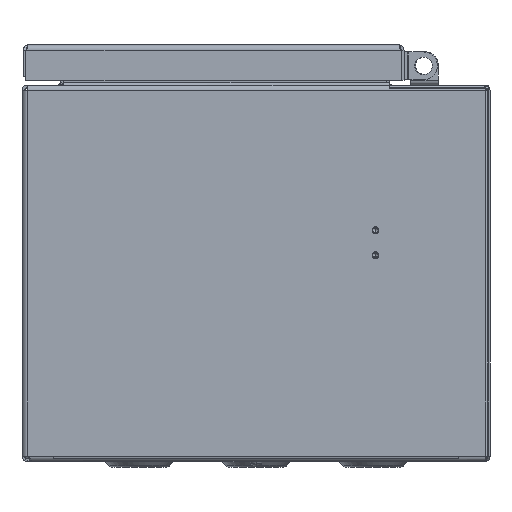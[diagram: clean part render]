
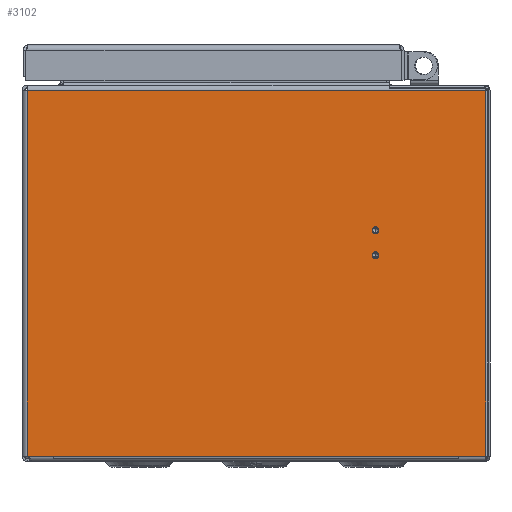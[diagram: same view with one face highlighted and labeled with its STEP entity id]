
A CAD part, front view. The second image highlights one B-rep face of the part: STEP entity #3102.
In plain terms, the highlighted planar face has unit normal (0, -1, 0).
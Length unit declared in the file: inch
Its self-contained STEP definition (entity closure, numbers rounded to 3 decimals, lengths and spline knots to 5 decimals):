
#703=DIRECTION('',(0.,0.,-1.));
#704=VECTOR('',#703,8.203);
#705=CARTESIAN_POINT('',(5.145,-10.0285,0.));
#706=LINE('',#705,#704);
#777=DIRECTION('',(1.,0.,0.));
#778=VECTOR('',#777,0.031);
#779=CARTESIAN_POINT('',(-5.143,-10.0285,-8.203));
#780=LINE('',#779,#778);
#781=DIRECTION('',(-1.,0.,0.));
#782=VECTOR('',#781,10.288);
#783=CARTESIAN_POINT('',(5.145,-10.0285,0.));
#784=LINE('',#783,#782);
#785=CARTESIAN_POINT('',(2.665,-10.0285,-3.698));
#786=DIRECTION('',(0.,1.,0.));
#787=DIRECTION('',(0.,0.,1.));
#788=AXIS2_PLACEMENT_3D('',#785,#786,#787);
#790=CARTESIAN_POINT('',(2.665,-10.0285,-3.698));
#791=DIRECTION('',(0.,1.,0.));
#792=DIRECTION('',(0.,0.,-1.));
#793=AXIS2_PLACEMENT_3D('',#790,#791,#792);
#795=CARTESIAN_POINT('',(2.665,-10.0285,-3.136));
#796=DIRECTION('',(0.,1.,0.));
#797=DIRECTION('',(0.,0.,1.));
#798=AXIS2_PLACEMENT_3D('',#795,#796,#797);
#800=CARTESIAN_POINT('',(2.665,-10.0285,-3.136));
#801=DIRECTION('',(0.,1.,0.));
#802=DIRECTION('',(0.,0.,-1.));
#803=AXIS2_PLACEMENT_3D('',#800,#801,#802);
#805=DIRECTION('',(-1.,0.,0.));
#806=VECTOR('',#805,10.257);
#807=CARTESIAN_POINT('',(5.145,-10.0285,-8.203));
#808=LINE('',#807,#806);
#865=DIRECTION('',(0.,0.,-1.));
#866=VECTOR('',#865,8.203);
#867=CARTESIAN_POINT('',(-5.143,-10.0285,0.));
#868=LINE('',#867,#866);
#1512=CARTESIAN_POINT('',(-5.143,-10.0285,-8.203));
#1513=CARTESIAN_POINT('',(-5.112,-10.0285,-8.203));
#1514=VERTEX_POINT('',#1512);
#1515=VERTEX_POINT('',#1513);
#1583=CARTESIAN_POINT('',(-5.143,-10.0285,0.));
#1584=VERTEX_POINT('',#1583);
#1739=CARTESIAN_POINT('',(5.145,-10.0285,0.));
#1741=VERTEX_POINT('',#1739);
#1748=CARTESIAN_POINT('',(5.145,-10.0285,-8.203));
#1749=VERTEX_POINT('',#1748);
#1771=CARTESIAN_POINT('',(2.665,-10.0285,-3.63738));
#1772=CARTESIAN_POINT('',(2.665,-10.0285,-3.75862));
#1773=VERTEX_POINT('',#1771);
#1774=VERTEX_POINT('',#1772);
#1775=CARTESIAN_POINT('',(2.665,-10.0285,-3.07538));
#1776=CARTESIAN_POINT('',(2.665,-10.0285,-3.19662));
#1777=VERTEX_POINT('',#1775);
#1778=VERTEX_POINT('',#1776);
#3075=CARTESIAN_POINT('',(5.205,-10.0285,0.));
#3076=DIRECTION('',(0.,1.,0.));
#3077=DIRECTION('',(-1.,0.,0.));
#3078=AXIS2_PLACEMENT_3D('',#3075,#3076,#3077);
#3079=PLANE('',#3078);
#3080=ORIENTED_EDGE('',*,*,#2924,.T.);
#3082=ORIENTED_EDGE('',*,*,#3081,.T.);
#3083=ORIENTED_EDGE('',*,*,#3069,.F.);
#3085=ORIENTED_EDGE('',*,*,#3084,.F.);
#3087=ORIENTED_EDGE('',*,*,#3086,.F.);
#3088=EDGE_LOOP('',(#3080,#3082,#3083,#3085,#3087));
#3089=FACE_OUTER_BOUND('',#3088,.F.);
#3091=ORIENTED_EDGE('',*,*,#3090,.F.);
#3093=ORIENTED_EDGE('',*,*,#3092,.F.);
#3094=EDGE_LOOP('',(#3091,#3093));
#3095=FACE_BOUND('',#3094,.F.);
#3097=ORIENTED_EDGE('',*,*,#3096,.F.);
#3099=ORIENTED_EDGE('',*,*,#3098,.F.);
#3100=EDGE_LOOP('',(#3097,#3099));
#3101=FACE_BOUND('',#3100,.F.);
#3102=ADVANCED_FACE('',(#3089,#3095,#3101),#3079,.F.);
#789=CIRCLE('',#788,0.06062);
#794=CIRCLE('',#793,0.06062);
#799=CIRCLE('',#798,0.06062);
#804=CIRCLE('',#803,0.06062);
#2924=EDGE_CURVE('',#1741,#1749,#706,.T.);
#3069=EDGE_CURVE('',#1514,#1515,#780,.T.);
#3081=EDGE_CURVE('',#1749,#1515,#808,.T.);
#3084=EDGE_CURVE('',#1584,#1514,#868,.T.);
#3086=EDGE_CURVE('',#1741,#1584,#784,.T.);
#3090=EDGE_CURVE('',#1773,#1774,#789,.T.);
#3092=EDGE_CURVE('',#1774,#1773,#794,.T.);
#3096=EDGE_CURVE('',#1777,#1778,#799,.T.);
#3098=EDGE_CURVE('',#1778,#1777,#804,.T.);
